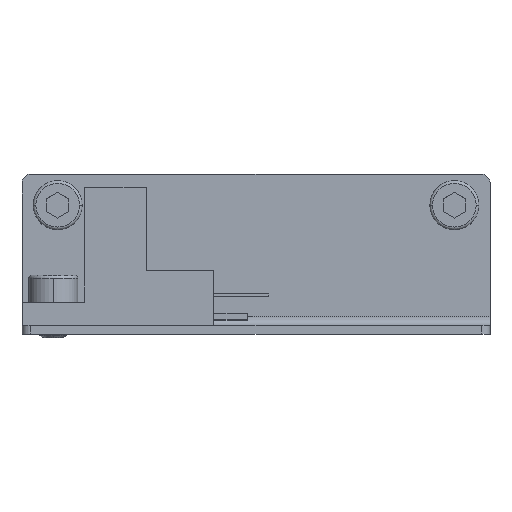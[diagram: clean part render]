
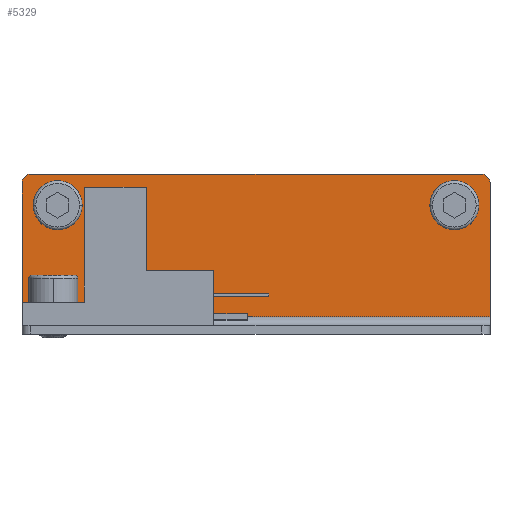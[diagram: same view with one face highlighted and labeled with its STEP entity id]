
A CAD part, top view. The second image highlights one B-rep face of the part: STEP entity #5329.
In plain terms, the highlighted planar face has unit normal (0, 0, 1).
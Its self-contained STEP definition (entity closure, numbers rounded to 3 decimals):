
#19 = FACE_BOUND ( 'NONE', #3069, .T. ) ;
#91 = AXIS2_PLACEMENT_3D ( 'NONE', #5603, #3927, #1316 ) ;
#176 = DIRECTION ( 'NONE',  ( -1., 0., 0. ) ) ;
#223 = AXIS2_PLACEMENT_3D ( 'NONE', #2143, #3113, #540 ) ;
#235 = EDGE_CURVE ( 'NONE', #2361, #2912, #3328, .T. ) ;
#313 = CIRCLE ( 'NONE', #1397, 2.75 ) ;
#540 = DIRECTION ( 'NONE',  ( -1., 0., 0. ) ) ;
#561 = CARTESIAN_POINT ( 'NONE',  ( 155.25, 30.75, 42.5 ) ) ;
#638 = ORIENTED_EDGE ( 'NONE', *, *, #2747, .F. ) ;
#654 = CARTESIAN_POINT ( 'NONE',  ( 156.5, 33.25, 42.5 ) ) ;
#655 = CARTESIAN_POINT ( 'NONE',  ( 156.5, 18.25, 42.5 ) ) ;
#699 = EDGE_CURVE ( 'NONE', #3763, #3993, #313, .T. ) ;
#711 = CARTESIAN_POINT ( 'NONE',  ( 105., 33.25, 42.5 ) ) ;
#917 = CARTESIAN_POINT ( 'NONE',  ( 149.75, 30.75, 42.5 ) ) ;
#927 = VERTEX_POINT ( 'NONE', #2324 ) ;
#991 = DIRECTION ( 'NONE',  ( 0., 0., 1. ) ) ;
#1020 = DIRECTION ( 'NONE',  ( 1., 0., 0. ) ) ;
#1091 = CARTESIAN_POINT ( 'NONE',  ( 108., 30.75, 42.5 ) ) ;
#1099 = AXIS2_PLACEMENT_3D ( 'NONE', #711, #5445, #1533 ) ;
#1105 = VERTEX_POINT ( 'NONE', #655 ) ;
#1315 = LINE ( 'NONE', #3898, #1506 ) ;
#1316 = DIRECTION ( 'NONE',  ( 0., -1., 0. ) ) ;
#1397 = AXIS2_PLACEMENT_3D ( 'NONE', #4652, #3378, #2916 ) ;
#1504 = AXIS2_PLACEMENT_3D ( 'NONE', #1091, #3752, #4159 ) ;
#1506 = VECTOR ( 'NONE', #2584, 1000. ) ;
#1520 = CARTESIAN_POINT ( 'NONE',  ( 156.5, 34.25, 42.5 ) ) ;
#1533 = DIRECTION ( 'NONE',  ( 1., 0., 0. ) ) ;
#1573 = EDGE_CURVE ( 'NONE', #927, #3581, #1315, .T. ) ;
#1613 = CARTESIAN_POINT ( 'NONE',  ( 155.5, 34.25, 42.5 ) ) ;
#1728 = DIRECTION ( 'NONE',  ( -1., 0., 0. ) ) ;
#1807 = CARTESIAN_POINT ( 'NONE',  ( 104., 18.25, 42.5 ) ) ;
#1881 = CIRCLE ( 'NONE', #2959, 2.75 ) ;
#1895 = ORIENTED_EDGE ( 'NONE', *, *, #4656, .F. ) ;
#2143 = CARTESIAN_POINT ( 'NONE',  ( 152.5, 30.75, 42.5 ) ) ;
#2164 = ORIENTED_EDGE ( 'NONE', *, *, #2303, .T. ) ;
#2189 = PLANE ( 'NONE',  #91 ) ;
#2219 = FACE_BOUND ( 'NONE', #5300, .T. ) ;
#2303 = EDGE_CURVE ( 'NONE', #2912, #927, #3551, .T. ) ;
#2314 = ORIENTED_EDGE ( 'NONE', *, *, #699, .F. ) ;
#2324 = CARTESIAN_POINT ( 'NONE',  ( 104., 33.25, 42.5 ) ) ;
#2361 = VERTEX_POINT ( 'NONE', #1613 ) ;
#2402 = DIRECTION ( 'NONE',  ( 0., 0., 1. ) ) ;
#2468 = VERTEX_POINT ( 'NONE', #5106 ) ;
#2574 = LINE ( 'NONE', #2635, #2664 ) ;
#2584 = DIRECTION ( 'NONE',  ( 0., -1., 0. ) ) ;
#2635 = CARTESIAN_POINT ( 'NONE',  ( 156.5, 18.25, 42.5 ) ) ;
#2664 = VECTOR ( 'NONE', #1728, 1000. ) ;
#2697 = DIRECTION ( 'NONE',  ( 0., -1., 0. ) ) ;
#2741 = EDGE_CURVE ( 'NONE', #2930, #1105, #4435, .T. ) ;
#2747 = EDGE_CURVE ( 'NONE', #1105, #3581, #2574, .T. ) ;
#2777 = CARTESIAN_POINT ( 'NONE',  ( 155.5, 33.25, 42.5 ) ) ;
#2912 = VERTEX_POINT ( 'NONE', #4144 ) ;
#2916 = DIRECTION ( 'NONE',  ( -1., 0., 0. ) ) ;
#2930 = VERTEX_POINT ( 'NONE', #654 ) ;
#2951 = EDGE_CURVE ( 'NONE', #2930, #2361, #4483, .T. ) ;
#2959 = AXIS2_PLACEMENT_3D ( 'NONE', #5440, #991, #176 ) ;
#3018 = CIRCLE ( 'NONE', #223, 2.75 ) ;
#3069 = EDGE_LOOP ( 'NONE', ( #5252, #1895 ) ) ;
#3113 = DIRECTION ( 'NONE',  ( 0., 0., 1. ) ) ;
#3130 = CIRCLE ( 'NONE', #1504, 2.75 ) ;
#3201 = EDGE_CURVE ( 'NONE', #3993, #3763, #3018, .T. ) ;
#3254 = ORIENTED_EDGE ( 'NONE', *, *, #2951, .T. ) ;
#3328 = LINE ( 'NONE', #1520, #3447 ) ;
#3378 = DIRECTION ( 'NONE',  ( 0., 0., 1. ) ) ;
#3447 = VECTOR ( 'NONE', #5434, 1000. ) ;
#3551 = CIRCLE ( 'NONE', #1099, 1. ) ;
#3581 = VERTEX_POINT ( 'NONE', #1807 ) ;
#3630 = CARTESIAN_POINT ( 'NONE',  ( 105.25, 30.75, 42.5 ) ) ;
#3752 = DIRECTION ( 'NONE',  ( 0., 0., 1. ) ) ;
#3763 = VERTEX_POINT ( 'NONE', #561 ) ;
#3871 = FACE_OUTER_BOUND ( 'NONE', #5446, .T. ) ;
#3898 = CARTESIAN_POINT ( 'NONE',  ( 104., 34.25, 42.5 ) ) ;
#3921 = EDGE_CURVE ( 'NONE', #4584, #2468, #3130, .T. ) ;
#3927 = DIRECTION ( 'NONE',  ( 0., 0., -1. ) ) ;
#3993 = VERTEX_POINT ( 'NONE', #917 ) ;
#4144 = CARTESIAN_POINT ( 'NONE',  ( 105., 34.25, 42.5 ) ) ;
#4159 = DIRECTION ( 'NONE',  ( -1., 0., 0. ) ) ;
#4402 = CARTESIAN_POINT ( 'NONE',  ( 156.5, 34.25, 42.5 ) ) ;
#4435 = LINE ( 'NONE', #4402, #5110 ) ;
#4483 = CIRCLE ( 'NONE', #4932, 1. ) ;
#4584 = VERTEX_POINT ( 'NONE', #3630 ) ;
#4652 = CARTESIAN_POINT ( 'NONE',  ( 152.5, 30.75, 42.5 ) ) ;
#4656 = EDGE_CURVE ( 'NONE', #2468, #4584, #1881, .T. ) ;
#4932 = AXIS2_PLACEMENT_3D ( 'NONE', #2777, #2402, #1020 ) ;
#4938 = ORIENTED_EDGE ( 'NONE', *, *, #3201, .F. ) ;
#5012 = ORIENTED_EDGE ( 'NONE', *, *, #1573, .T. ) ;
#5106 = CARTESIAN_POINT ( 'NONE',  ( 110.75, 30.75, 42.5 ) ) ;
#5110 = VECTOR ( 'NONE', #2697, 1000. ) ;
#5188 = ORIENTED_EDGE ( 'NONE', *, *, #2741, .F. ) ;
#5240 = ORIENTED_EDGE ( 'NONE', *, *, #235, .T. ) ;
#5252 = ORIENTED_EDGE ( 'NONE', *, *, #3921, .F. ) ;
#5300 = EDGE_LOOP ( 'NONE', ( #4938, #2314 ) ) ;
#5329 = ADVANCED_FACE ( 'NONE', ( #3871, #2219, #19 ), #2189, .F. ) ;
#5434 = DIRECTION ( 'NONE',  ( -1., 0., 0. ) ) ;
#5440 = CARTESIAN_POINT ( 'NONE',  ( 108., 30.75, 42.5 ) ) ;
#5445 = DIRECTION ( 'NONE',  ( 0., 0., 1. ) ) ;
#5446 = EDGE_LOOP ( 'NONE', ( #5240, #2164, #5012, #638, #5188, #3254 ) ) ;
#5603 = CARTESIAN_POINT ( 'NONE',  ( 156.5, 34.25, 42.5 ) ) ;
